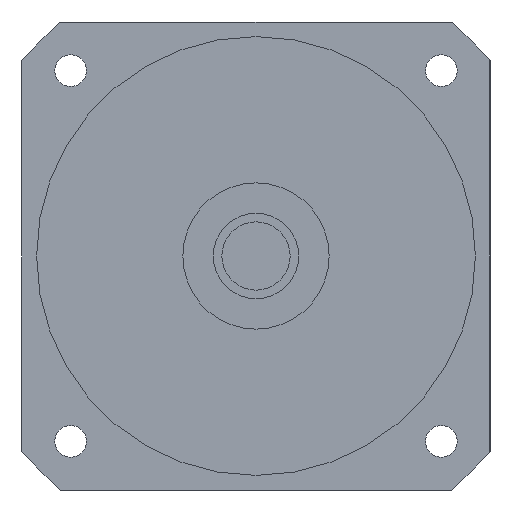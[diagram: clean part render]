
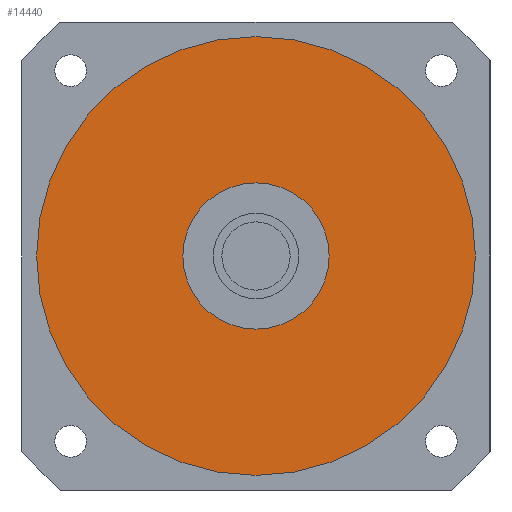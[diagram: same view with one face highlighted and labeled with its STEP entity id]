
A CAD part, left-side view. The second image highlights one B-rep face of the part: STEP entity #14440.
In plain terms, the highlighted planar face has unit normal (-1, 0, 0) as drawn and (0, 0, -1) by its records, which use the part's own axes.
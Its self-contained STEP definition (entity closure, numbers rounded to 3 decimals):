
#8930=CARTESIAN_POINT('',(30.,0.,-62.1));
#8940=VERTEX_POINT('',#8930);
#8970=CARTESIAN_POINT('',(0.,0.,
-62.1));
#8980=DIRECTION('',(0.,0.,1.));
#8990=DIRECTION('',(0.,1.,0.));
#9000=AXIS2_PLACEMENT_3D('',#8970,#8980,#8990);
#9010=CIRCLE('',#9000,30.);
#9020=CARTESIAN_POINT('',(0.,30.,-62.1));
#9030=VERTEX_POINT('',#9020);
#9040=EDGE_CURVE('',#8940,#9030,#9010,.T.);
#9060=CARTESIAN_POINT('',(-30.,0.,-62.1));
#9070=VERTEX_POINT('',#9060);
#9080=EDGE_CURVE('',#9030,#9070,#9010,.T.);
#13990=CARTESIAN_POINT('',(90.,0.,-62.1));
#14000=VERTEX_POINT('',#13990);
#14090=CARTESIAN_POINT('',(-90.,0.,-62.1));
#14100=VERTEX_POINT('',#14090);
#14130=CARTESIAN_POINT('',(0.,0.,
-62.1));
#14140=DIRECTION('',(0.,0.,1.));
#14150=DIRECTION('',(0.,1.,0.));
#14160=AXIS2_PLACEMENT_3D('',#14130,#14140,#14150);
#14170=CIRCLE('',#14160,90.);
#14180=CARTESIAN_POINT('',(0.,90.,-62.1));
#14190=VERTEX_POINT('',#14180);
#14200=EDGE_CURVE('',#14190,#14100,#14170,.T.);
#14220=EDGE_CURVE('',#14000,#14190,#14170,.T.);
#14270=CARTESIAN_POINT('',(0.,0.,
-62.1));
#14280=DIRECTION('',(0.,0.,1.));
#14290=DIRECTION('',(-1.,0.,0.));
#14300=AXIS2_PLACEMENT_3D('',#14270,#14280,#14290);
#14310=PLANE('',#14300);
#14320=ORIENTED_EDGE('',*,*,#14200,.F.);
#14330=EDGE_CURVE('',#14100,#14000,#14170,.T.);
#14340=ORIENTED_EDGE('',*,*,#14330,.F.);
#14350=ORIENTED_EDGE('',*,*,#14220,.F.);
#14360=EDGE_LOOP('',(#14350,#14340,#14320));
#14370=FACE_OUTER_BOUND('',#14360,.T.);
#14380=EDGE_CURVE('',#9070,#8940,#9010,.T.);
#14390=ORIENTED_EDGE('',*,*,#14380,.T.);
#14400=ORIENTED_EDGE('',*,*,#9080,.T.);
#14410=ORIENTED_EDGE('',*,*,#9040,.T.);
#14420=EDGE_LOOP('',(#14410,#14400,#14390));
#14430=FACE_BOUND('',#14420,.T.);
#14440=ADVANCED_FACE('',(#14370,#14430),#14310,.F.);
